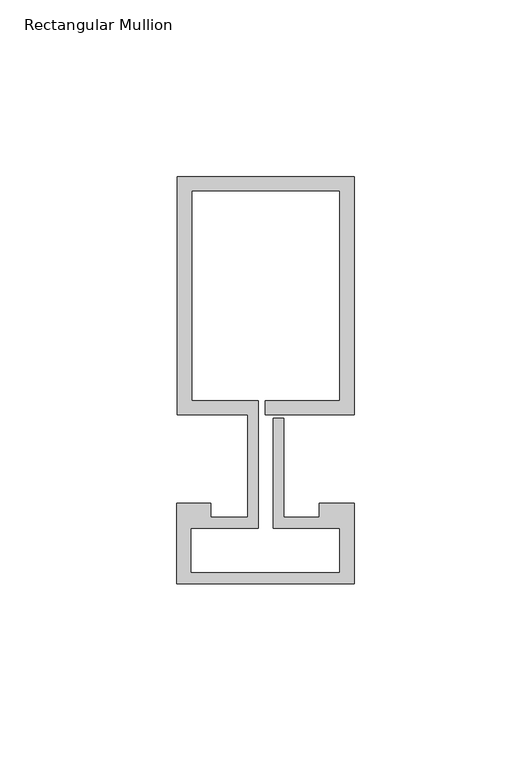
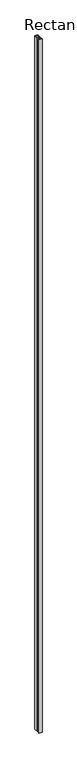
"""IFC4 building model written with IfcOpenShell, lengths in millimetres: member geometry, Rectangular Mullion : Reynaers_CW-50_Mullion-Transom_Horizontal_67.4mm_Facecap-02C."""

from ifc_helpers import new_model, si_unit, frame, origin, place, context, project, spatial, polyline, outline, extrude, source, transform, mapped, element, save


def rectangular_mullion_47334e2f(model_context):
    return source(origin(), model_context, "Body", "SweptSolid", [
        extrude(outline(polyline([(-24.8004059, 79.9), (25.1995941, 79.9), (25.1995941, 12.5), (0.0, 12.5), (0.0, 16.5), (21.1995941, 16.5), (21.1995941, 75.9), (-20.8004059, 75.9), (-20.8004059, 16.5), (-1.9004059, 16.5), (-1.9004059, -19.5), (-20.994845, -19.5), (-20.994845, -32.2191338), (21.1995941, -32.2191338), (21.1995941, -19.5), (2.2995941, -19.5), (2.2995941, 11.5), (5.2995941, 11.5), (5.2995941, -16.5), (15.2996495, -16.5), (15.2996495, -12.5), (25.1995941, -12.5), (25.1995941, -35.3), (-24.994845, -35.3), (-24.994845, -12.5), (-15.2996495, -12.5), (-15.2996495, -16.5), (-4.9004059, -16.5), (-4.9004059, 12.5), (-24.8004059, 12.5), (-24.8004059, 79.9)])), frame((0.0, 0.0, -12000.0), z_axis=(0.0, 0.0, 1.0), x_axis=(1.0, 0.0, 0.0)), (0.0, 0.0, 1.0), 12000.0),
    ])


if __name__ == "__main__":
    model = new_model("IFC4")
    model_context = context("Model", 3, world=origin())
    ifc_project = project(units=[si_unit("LENGTHUNIT", "METRE", prefix="MILLI")], contexts=[model_context])
    site = spatial("IfcSite", under=ifc_project)
    building = spatial("IfcBuilding", under=site)
    placement = place(None, origin())
    rectangular_mullion_shape = rectangular_mullion_47334e2f(model_context)
    element("IfcMember", 1, ObjectType="Rectangular Mullion : Reynaers_CW-50_Mullion-Transom_Horizontal_67.4mm_Facecap-02C", at=placement, inside=building, context=model_context, shape_type="MappedRepresentation", body=[
        mapped(rectangular_mullion_shape, transform((0.0, 0.0, 0.0), x_axis=(1.0, 0.0, 0.0), y_axis=(0.0, 1.0, 0.0), z_axis=(0.0, 0.0, 1.0))),
    ])
    save(model, "model.ifc")
